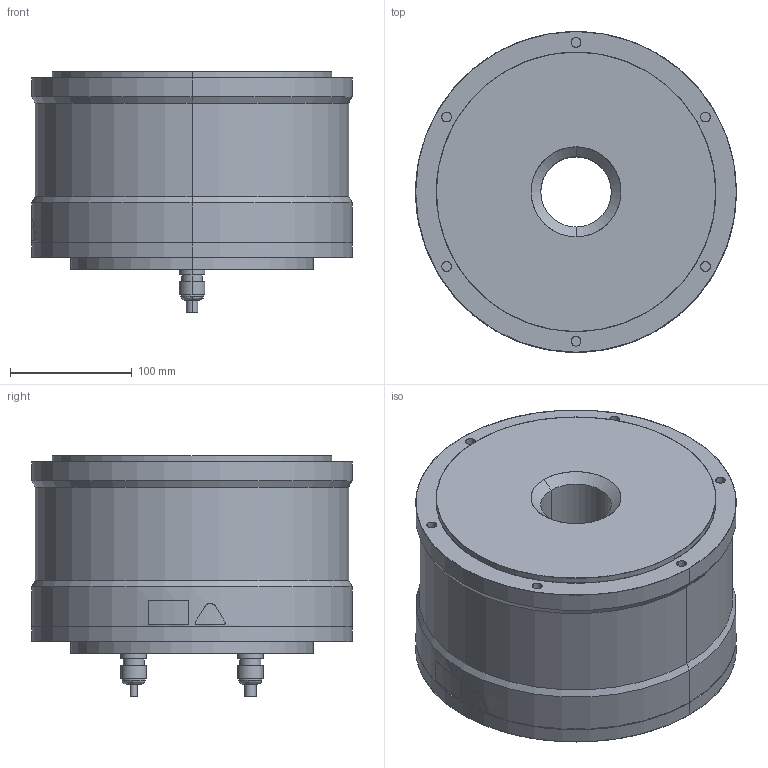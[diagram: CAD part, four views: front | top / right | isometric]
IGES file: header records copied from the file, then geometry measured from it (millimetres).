
Start section: SolidWorks IGES file using analytic representation for surfaces
Bounding box: 264.08 x 264 x 197.8 mm (x, y, z)
Surface area: 280376.4 mm2 (no closed solid volume)
Topology: 0 solids, 0 shells, 224 faces, 5268 edges, 5268 vertices
Faces by surface type: revolution 142, bspline 82
